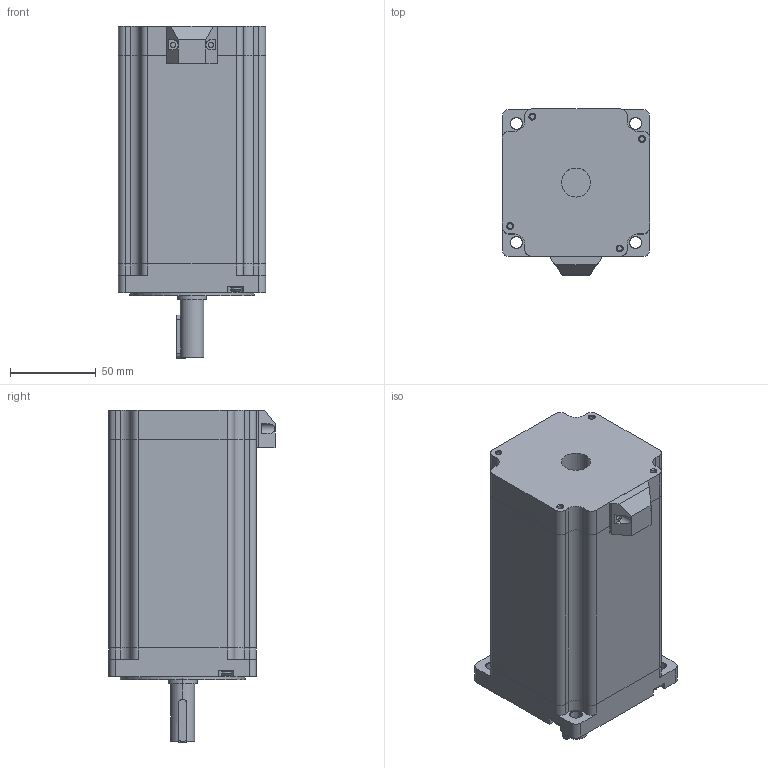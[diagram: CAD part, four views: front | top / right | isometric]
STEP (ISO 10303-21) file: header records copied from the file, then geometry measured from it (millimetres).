
FILE_DESCRIPTION (( 'STEP AP203' ), '1' );
FILE_NAME ('86J18156-460-14K-38.STEP', '2019-09-25T01:09:57', ( 'USER-' ), ( 'MS' ), 'SwSTEP 2.0', 'SolidWorks 2015', '' );
FILE_SCHEMA (( 'CONFIG_CONTROL_DESIGN' ));
Length unit declared in the file: millimetre
Products named in the file (7): 奻裔; 錨璃4; 25mm瑩; 綴裔; 86J18156等揤盄邡; 蹟佪芛_1; 86J18156-460-14K-38
Assembly tree (8 placements, depth 2):
  86J18156-460-14K-38
    蹟佪芛_1  x3
    奻裔
    錨璃4
    25mm瑩
    綴裔
    86J18156等揤盄邡
Bounding box: 86 x 97 x 194 mm (x, y, z)
Volume: 1060012.2 mm3; surface area: 102944.5 mm2
Topology: 8 solids, 8 shells, 337 faces, 895 edges, 581 vertices
Faces by surface type: plane 151, cylinder 139, cone 29, bspline 18
Entity records: 9945 total; most frequent: CARTESIAN_POINT 2000, DIRECTION 1546, ORIENTED_EDGE 1486, EDGE_CURVE 743, AXIS2_PLACEMENT_3D 557, VERTEX_POINT 483, LINE 432, VECTOR 432
